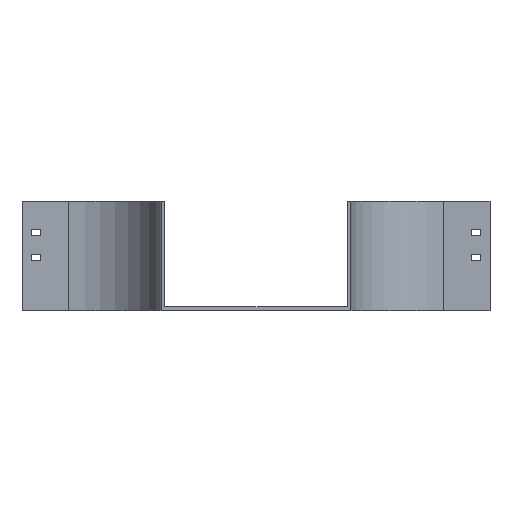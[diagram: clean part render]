
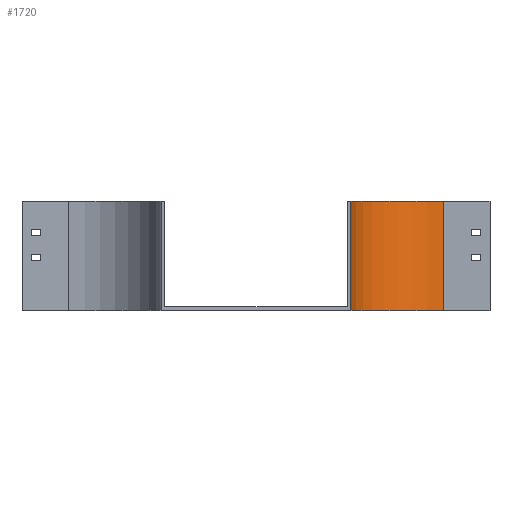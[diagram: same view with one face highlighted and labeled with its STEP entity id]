
A CAD part, top view. The second image highlights one B-rep face of the part: STEP entity #1720.
In plain terms, the highlighted cylindrical face has radius 100 mm (diameter 200 mm), a partial arc.
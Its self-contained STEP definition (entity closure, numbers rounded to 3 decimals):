
#8 = ORIENTED_EDGE ( 'NONE', *, *, #2406, .T. ) ;
#47 = CARTESIAN_POINT ( 'NONE',  ( -100., 117.5, 0. ) ) ;
#132 = EDGE_CURVE ( 'NONE', #1704, #784, #3242, .T. ) ;
#261 = DIRECTION ( 'NONE',  ( 0., -1., 0. ) ) ;
#422 = CIRCLE ( 'NONE', #1495, 100. ) ;
#518 = EDGE_CURVE ( 'NONE', #784, #2673, #2656, .T. ) ;
#784 = VERTEX_POINT ( 'NONE', #1343 ) ;
#810 = VECTOR ( 'NONE', #2600, 1000. ) ;
#874 = EDGE_CURVE ( 'NONE', #2021, #2673, #422, .T. ) ;
#902 = DIRECTION ( 'NONE',  ( 0., 0., -1. ) ) ;
#1125 = CARTESIAN_POINT ( 'NONE',  ( 0., 117.5, -100. ) ) ;
#1199 = CARTESIAN_POINT ( 'NONE',  ( -100., 117.5, 0. ) ) ;
#1218 = CARTESIAN_POINT ( 'NONE',  ( 0., 117.5, 0. ) ) ;
#1343 = CARTESIAN_POINT ( 'NONE',  ( 0., 117.5, -100. ) ) ;
#1456 = DIRECTION ( 'NONE',  ( 0., -1., 0. ) ) ;
#1495 = AXIS2_PLACEMENT_3D ( 'NONE', #2377, #3749, #902 ) ;
#1512 = CYLINDRICAL_SURFACE ( 'NONE', #3261, 100. ) ;
#1704 = VERTEX_POINT ( 'NONE', #1199 ) ;
#1720 = ADVANCED_FACE ( 'NONE', ( #2085 ), #1512, .F. ) ;
#1756 = DIRECTION ( 'NONE',  ( 0., 0., -1. ) ) ;
#1847 = ORIENTED_EDGE ( 'NONE', *, *, #518, .F. ) ;
#2021 = VERTEX_POINT ( 'NONE', #2858 ) ;
#2085 = FACE_OUTER_BOUND ( 'NONE', #2959, .T. ) ;
#2275 = AXIS2_PLACEMENT_3D ( 'NONE', #2441, #261, #1756 ) ;
#2377 = CARTESIAN_POINT ( 'NONE',  ( 0., 0., 0. ) ) ;
#2406 = EDGE_CURVE ( 'NONE', #1704, #2021, #2709, .T. ) ;
#2441 = CARTESIAN_POINT ( 'NONE',  ( 0., 117.5, 0. ) ) ;
#2564 = CARTESIAN_POINT ( 'NONE',  ( 0., 0., -100. ) ) ;
#2600 = DIRECTION ( 'NONE',  ( 0., -1., 0. ) ) ;
#2614 = DIRECTION ( 'NONE',  ( 0., 0., -1. ) ) ;
#2656 = LINE ( 'NONE', #1125, #810 ) ;
#2673 = VERTEX_POINT ( 'NONE', #2564 ) ;
#2709 = LINE ( 'NONE', #47, #3643 ) ;
#2771 = ORIENTED_EDGE ( 'NONE', *, *, #132, .F. ) ;
#2858 = CARTESIAN_POINT ( 'NONE',  ( -100., 0., 0. ) ) ;
#2935 = DIRECTION ( 'NONE',  ( 0., -1., 0. ) ) ;
#2959 = EDGE_LOOP ( 'NONE', ( #3326, #1847, #2771, #8 ) ) ;
#3242 = CIRCLE ( 'NONE', #2275, 100. ) ;
#3261 = AXIS2_PLACEMENT_3D ( 'NONE', #1218, #1456, #2614 ) ;
#3326 = ORIENTED_EDGE ( 'NONE', *, *, #874, .T. ) ;
#3643 = VECTOR ( 'NONE', #2935, 1000. ) ;
#3749 = DIRECTION ( 'NONE',  ( 0., -1., 0. ) ) ;
